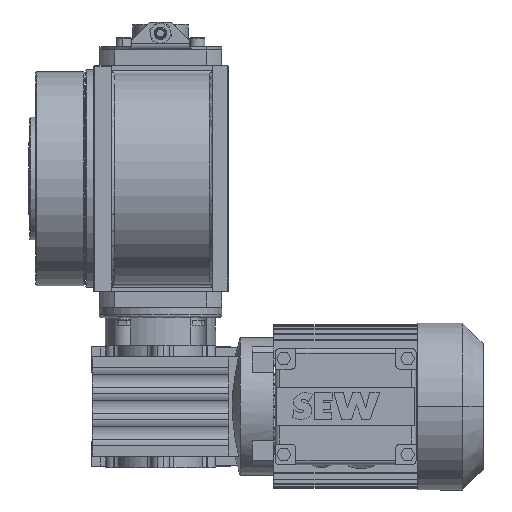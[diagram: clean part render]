
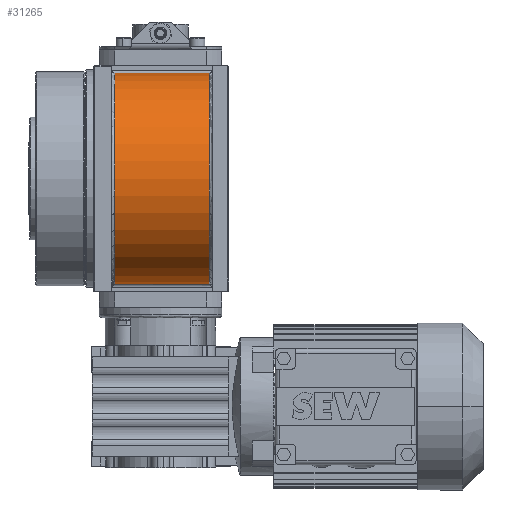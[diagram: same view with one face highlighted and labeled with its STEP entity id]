
A CAD part, left-side view. The second image highlights one B-rep face of the part: STEP entity #31265.
In plain terms, the highlighted cylindrical face has radius 69 mm (diameter 138 mm), a partial arc.
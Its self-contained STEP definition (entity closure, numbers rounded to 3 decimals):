
#4599 = FACE_OUTER_BOUND ( 'NONE', #21083, .T. ) ;
#5679 = DIRECTION ( 'NONE',  ( 0., 0., -1. ) ) ;
#11266 = DIRECTION ( 'NONE',  ( 0., -1., 0. ) ) ;
#13007 = CARTESIAN_POINT ( 'NONE',  ( -42.511, 10.762, 109.5 ) ) ;
#16056 = EDGE_CURVE ( 'NONE', #64007, #70307, #17487, .T. ) ;
#17487 = CIRCLE ( 'NONE', #37479, 69. ) ;
#19912 = DIRECTION ( 'NONE',  ( 0., -1., 0. ) ) ;
#20204 = DIRECTION ( 'NONE',  ( 0., -1., 0. ) ) ;
#20214 = VECTOR ( 'NONE', #20204, 1000. ) ;
#21083 = EDGE_LOOP ( 'NONE', ( #53568, #62925, #29087, #31002 ) ) ;
#23981 = LINE ( 'NONE', #13007, #29011 ) ;
#26421 = CARTESIAN_POINT ( 'NONE',  ( -42.511, 10.762, -28.281 ) ) ;
#28382 = CARTESIAN_POINT ( 'NONE',  ( -38.624, -53.238, 40.609 ) ) ;
#29011 = VECTOR ( 'NONE', #40513, 1000. ) ;
#29087 = ORIENTED_EDGE ( 'NONE', *, *, #37499, .T. ) ;
#31002 = ORIENTED_EDGE ( 'NONE', *, *, #64772, .T. ) ;
#31265 = ADVANCED_FACE ( 'NONE', ( #4599 ), #50544, .T. ) ;
#32115 = CIRCLE ( 'NONE', #50921, 69. ) ;
#34603 = DIRECTION ( 'NONE',  ( 0., 1., 0. ) ) ;
#37479 = AXIS2_PLACEMENT_3D ( 'NONE', #28382, #34603, #62585 ) ;
#37499 = EDGE_CURVE ( 'NONE', #43580, #45511, #32115, .T. ) ;
#40513 = DIRECTION ( 'NONE',  ( 0., 1., 0. ) ) ;
#41896 = CARTESIAN_POINT ( 'NONE',  ( -42.511, -53.238, 109.5 ) ) ;
#42272 = DIRECTION ( 'NONE',  ( 0., 0., 1. ) ) ;
#43580 = VERTEX_POINT ( 'NONE', #67285 ) ;
#45511 = VERTEX_POINT ( 'NONE', #71340 ) ;
#50544 = CYLINDRICAL_SURFACE ( 'NONE', #60702, 69. ) ;
#50921 = AXIS2_PLACEMENT_3D ( 'NONE', #70240, #19912, #42272 ) ;
#52355 = EDGE_CURVE ( 'NONE', #70307, #43580, #23981, .T. ) ;
#53568 = ORIENTED_EDGE ( 'NONE', *, *, #16056, .T. ) ;
#54387 = LINE ( 'NONE', #26421, #20214 ) ;
#57970 = CARTESIAN_POINT ( 'NONE',  ( -42.511, -53.238, -28.281 ) ) ;
#60702 = AXIS2_PLACEMENT_3D ( 'NONE', #72579, #11266, #5679 ) ;
#62585 = DIRECTION ( 'NONE',  ( 0., 0., 1. ) ) ;
#62925 = ORIENTED_EDGE ( 'NONE', *, *, #52355, .T. ) ;
#64007 = VERTEX_POINT ( 'NONE', #57970 ) ;
#64772 = EDGE_CURVE ( 'NONE', #45511, #64007, #54387, .T. ) ;
#67285 = CARTESIAN_POINT ( 'NONE',  ( -42.511, 8.762, 109.5 ) ) ;
#70240 = CARTESIAN_POINT ( 'NONE',  ( -38.624, 8.762, 40.609 ) ) ;
#70307 = VERTEX_POINT ( 'NONE', #41896 ) ;
#71340 = CARTESIAN_POINT ( 'NONE',  ( -42.511, 8.762, -28.281 ) ) ;
#72579 = CARTESIAN_POINT ( 'NONE',  ( -38.624, 10.762, 40.609 ) ) ;
